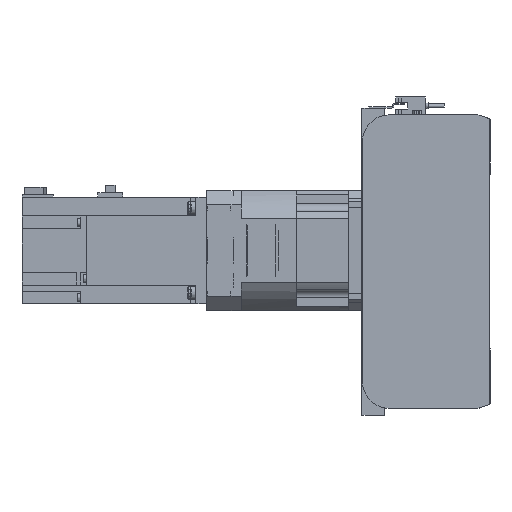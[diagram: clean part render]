
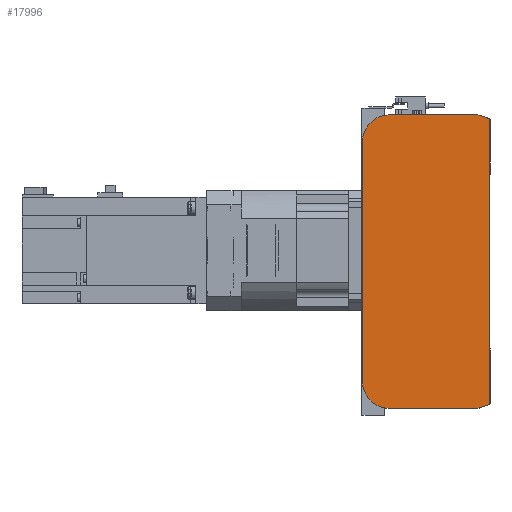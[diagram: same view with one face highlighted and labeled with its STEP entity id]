
A CAD part, left-side view. The second image highlights one B-rep face of the part: STEP entity #17996.
In plain terms, the highlighted planar face has unit normal (-1, 0, 0).
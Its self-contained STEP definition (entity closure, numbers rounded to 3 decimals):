
#1022=CIRCLE('',#19620,20.);
#1023=CIRCLE('',#19623,20.);
#4526=ORIENTED_EDGE('',*,*,#7816,.F.);
#4527=ORIENTED_EDGE('',*,*,#7858,.F.);
#4528=ORIENTED_EDGE('',*,*,#7856,.F.);
#4529=ORIENTED_EDGE('',*,*,#7854,.F.);
#4530=ORIENTED_EDGE('',*,*,#7843,.F.);
#4531=ORIENTED_EDGE('',*,*,#7834,.F.);
#4532=ORIENTED_EDGE('',*,*,#7830,.F.);
#4533=ORIENTED_EDGE('',*,*,#7827,.F.);
#7816=EDGE_CURVE('',#9805,#9806,#11419,.T.);
#7827=EDGE_CURVE('',#9806,#9813,#11430,.T.);
#7830=EDGE_CURVE('',#9813,#9815,#11433,.T.);
#7834=EDGE_CURVE('',#9815,#9816,#11437,.T.);
#7843=EDGE_CURVE('',#9816,#9822,#11446,.T.);
#7854=EDGE_CURVE('',#9822,#9829,#1022,.T.);
#7856=EDGE_CURVE('',#9829,#9830,#11458,.T.);
#7858=EDGE_CURVE('',#9830,#9805,#1023,.T.);
#9805=VERTEX_POINT('',#29662);
#9806=VERTEX_POINT('',#29664);
#9813=VERTEX_POINT('',#29683);
#9815=VERTEX_POINT('',#29689);
#9816=VERTEX_POINT('',#29695);
#9822=VERTEX_POINT('',#29711);
#9829=VERTEX_POINT('',#29730);
#9830=VERTEX_POINT('',#29734);
#11419=LINE('',#29663,#12992);
#11430=LINE('',#29682,#13003);
#11433=LINE('',#29688,#13006);
#11437=LINE('',#29694,#13010);
#11446=LINE('',#29710,#13019);
#11458=LINE('',#29733,#13031);
#12992=VECTOR('',#23795,1000.);
#13003=VECTOR('',#23808,1000.);
#13006=VECTOR('',#23813,1000.);
#13010=VECTOR('',#23819,1000.);
#13019=VECTOR('',#23830,1000.);
#13031=VECTOR('',#23848,1000.);
#14416=EDGE_LOOP('',(#4526,#4527,#4528,#4529,#4530,#4531,#4532,#4533));
#16046=FACE_BOUND('',#14416,.T.);
#17115=PLANE('',#19624);
#17996=ADVANCED_FACE('',(#16046),#17115,.F.);
#19620=AXIS2_PLACEMENT_3D('',#29729,#23843,#23844);
#19623=AXIS2_PLACEMENT_3D('',#29737,#23852,#23853);
#19624=AXIS2_PLACEMENT_3D('',#29738,#23854,#23855);
#23795=DIRECTION('',(0.,-1.,0.));
#23808=DIRECTION('',(0.,-0.945,-0.328));
#23813=DIRECTION('',(0.,0.,-1.));
#23819=DIRECTION('',(0.,0.945,-0.328));
#23830=DIRECTION('',(0.,1.,0.));
#23843=DIRECTION('',(1.,0.,0.));
#23844=DIRECTION('',(0.,0.,-1.));
#23848=DIRECTION('',(0.,0.,1.));
#23852=DIRECTION('',(1.,0.,0.));
#23853=DIRECTION('',(0.,0.,-1.));
#23854=DIRECTION('',(1.,0.,0.));
#23855=DIRECTION('',(0.,0.,-1.));
#29662=CARTESIAN_POINT('',(0.,75.5,110.));
#29663=CARTESIAN_POINT('',(0.,75.5,110.));
#29664=CARTESIAN_POINT('',(0.,9.,110.));
#29682=CARTESIAN_POINT('',(0.,9.,110.));
#29683=CARTESIAN_POINT('',(0.,0.5,107.05));
#29688=CARTESIAN_POINT('',(0.,0.5,107.05));
#29689=CARTESIAN_POINT('',(0.,0.5,-107.05));
#29694=CARTESIAN_POINT('',(0.,0.5,-107.05));
#29695=CARTESIAN_POINT('',(0.,9.,-110.));
#29710=CARTESIAN_POINT('',(0.,9.,-110.));
#29711=CARTESIAN_POINT('',(0.,75.5,-110.));
#29729=CARTESIAN_POINT('',(0.,75.5,-90.));
#29730=CARTESIAN_POINT('',(0.,95.5,-90.));
#29733=CARTESIAN_POINT('',(0.,95.5,-90.));
#29734=CARTESIAN_POINT('',(0.,95.5,90.));
#29737=CARTESIAN_POINT('',(0.,75.5,90.));
#29738=CARTESIAN_POINT('',(0.,75.5,-90.));
